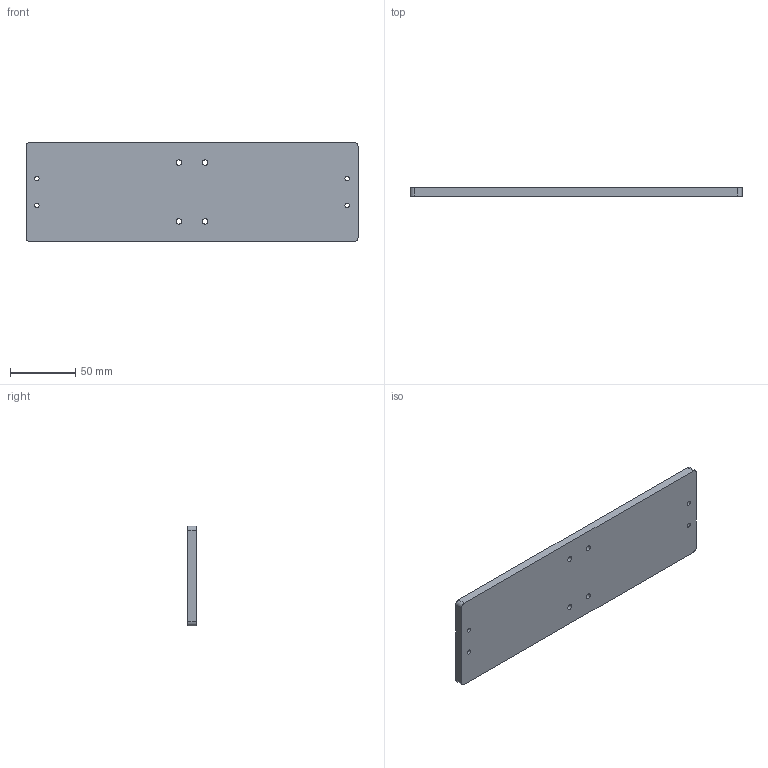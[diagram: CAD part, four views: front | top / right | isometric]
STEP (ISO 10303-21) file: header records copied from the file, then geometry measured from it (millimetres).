
FILE_DESCRIPTION (( 'STEP AP203' ), '1' );
FILE_NAME ('SLM-642-M.STEP', '2020-01-17T11:39:55', ( '' ), ( '' ), 'SwSTEP 2.0', 'SolidWorks 2019', '' );
FILE_SCHEMA (( 'CONFIG_CONTROL_DESIGN' ));
Length unit declared in the file: inch
Products named in the file (1): SLM-642-M
Bounding box: 254 x 6.35 x 76.2 mm (x, y, z)
Volume: 122258.2 mm3; surface area: 43276.2 mm2
Topology: 1 solids, 1 shells, 131 faces, 979 edges, 963 vertices
Faces by surface type: plane 119, cylinder 12
Full cylindrical faces by diameter (mm): 3.454 x4, 4.2 x4
Entity records: 13044 total; most frequent: CARTESIAN_POINT 5348, ORIENTED_EDGE 1942, DIRECTION 1062, EDGE_CURVE 971, VERTEX_POINT 963, VECTOR 750, LINE 750, EDGE_LOOP 268
